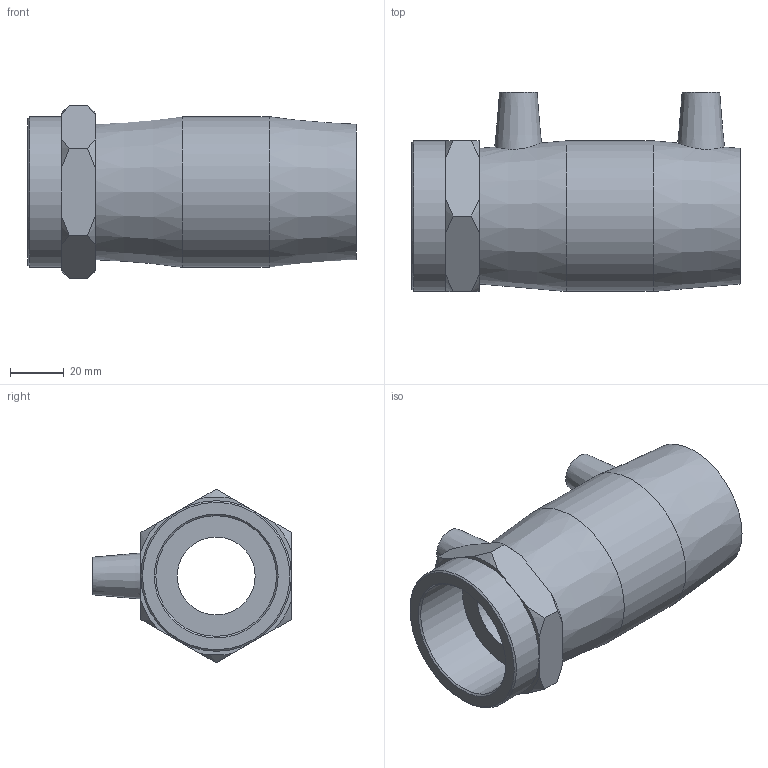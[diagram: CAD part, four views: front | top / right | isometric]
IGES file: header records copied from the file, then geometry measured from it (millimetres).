
Global section: file name: 493104040015.ipt; native system: Autodesk Inventor 2015; preprocessor: unknown; author: KIM; date: 20200202.122445; units: millimetre
Bounding box: 122 x 74 x 64.66 mm (x, y, z)
Volume: 164017.2 mm3; surface area: 42023.6 mm2
Topology: 1 solids, 1 shells, 54 faces, 130 edges, 86 vertices
Faces by surface type: plane 24, cone 17, revolution 9, cylinder 4
Full cylindrical faces by diameter (mm): 4 x2, 56 x2
